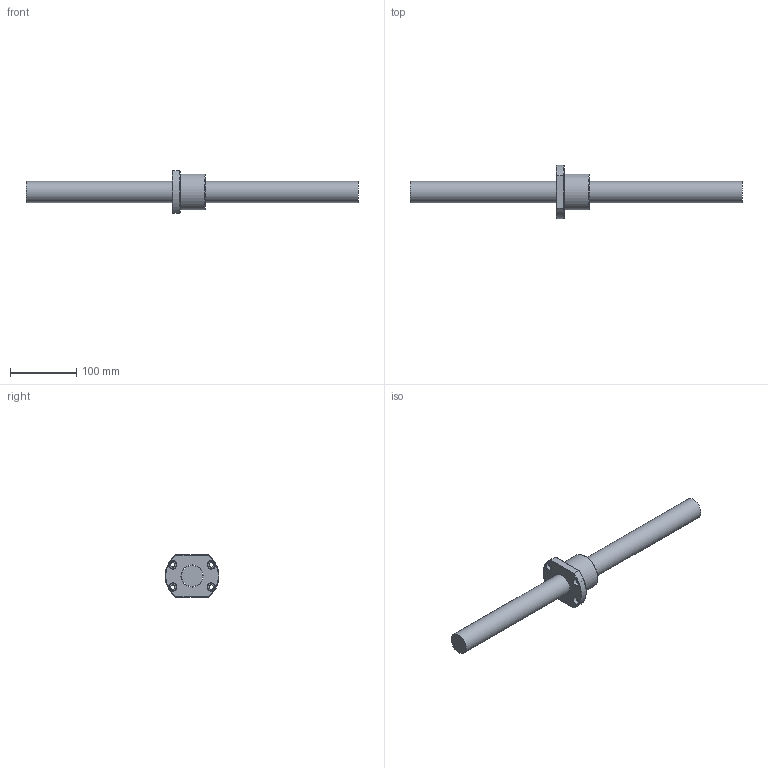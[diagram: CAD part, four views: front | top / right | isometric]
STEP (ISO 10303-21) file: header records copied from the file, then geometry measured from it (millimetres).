
FILE_DESCRIPTION (( 'STEP AP203' ), '1' );
FILE_NAME ('SFV03204D-4.8.step', '2024-05-20T03:38:43', ( '' ), ( '' ), 'SwSTEP 2.0', 'SolidWorks 2022', '' );
FILE_SCHEMA (( 'CONFIG_CONTROL_DESIGN' ));
Length unit declared in the file: millimetre
Products named in the file (1): SFV03204D-4.8
Bounding box: 500 x 80.86 x 64 mm (x, y, z)
Volume: 496743.2 mm3; surface area: 74983.1 mm2
Topology: 2 solids, 2 shells, 54 faces, 140 edges, 91 vertices
Faces by surface type: cylinder 20, plane 16, cone 9, torus 5, bspline 4
Full cylindrical faces by diameter (mm): 4 x1, 5 x5, 6.6 x4, 11 x4, 32 x1, 33.3 x1, 54 x1
Entity records: 3145 total; most frequent: CARTESIAN_POINT 2059, DIRECTION 198, ORIENTED_EDGE 182, AXIS2_PLACEMENT_3D 91, EDGE_CURVE 91, EDGE_LOOP 86, VERTEX_POINT 71, FACE_OUTER_BOUND 64
